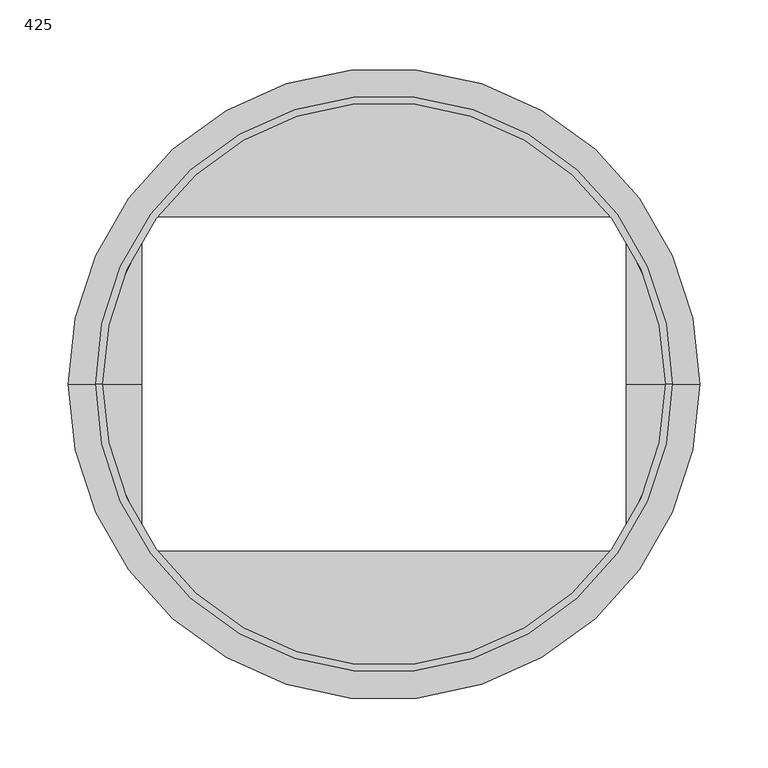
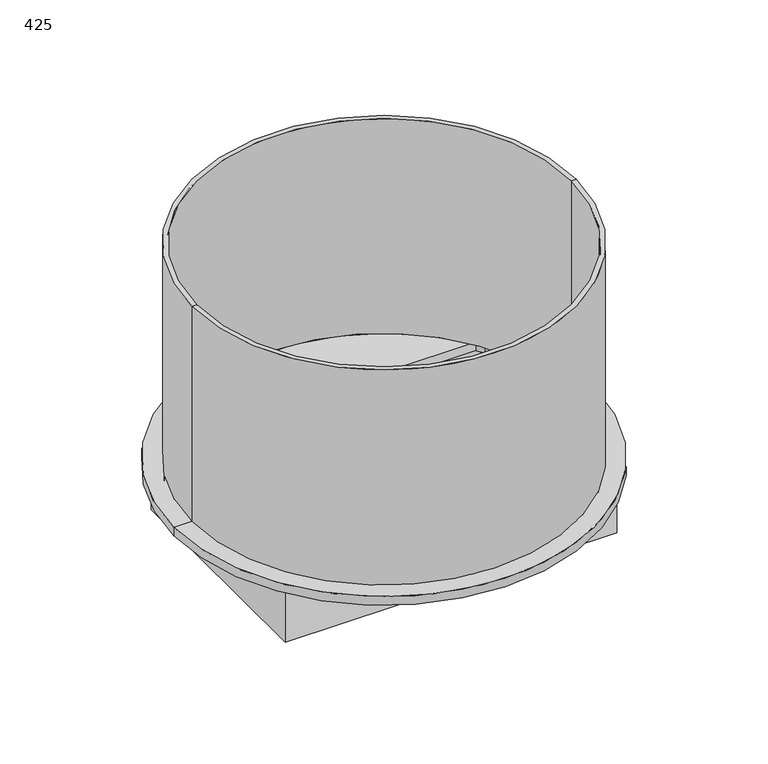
"""IFC4 building model written with IfcOpenShell, lengths in millimetres: unitary equipment geometry, Z_ME_UN_Q-Bic_Plus_Kit_Shaft_Connector_Wavin_(nested) : 425."""

from ifc_helpers import new_model, si_unit, frame, origin, origin_with_axes, place, context, project, spatial, polyline, circle_curve, outline, extrude, source, transform, mapped, element, save
from ifc_brep_helpers import plane_surface, cylinder_surface, revolved_surface, advanced_brep


def unitary_equipment_425_46f02a0c(model_context):
    return source(origin(), model_context, "Body", "SolidModel", [
        advanced_brep(
        [(-211.3, 0.0, 260.0), (211.3, 0.0, 260.0), (211.3, 0.0, 0.0), (177.5, 114.63612, 0.0), (177.5, 114.63612, 10.0), (172.1668958, 122.5, 10.0), (172.1668958, 122.5, 0.0), (-172.1668958, 122.5, 0.0), (-172.1668958, 122.5, 10.0), (-177.5, 114.63612, 10.0), (-177.5, 114.63612, 0.0), (-211.3, 0.0, 0.0), (-177.5, -114.63612, 0.0), (-177.5, -114.63612, 10.0), (-172.1668958, -122.5, 10.0), (-172.1668958, -122.5, 0.0), (172.1668958, -122.5, 0.0), (172.1668958, -122.5, 10.0), (177.5, -114.63612, 10.0), (177.5, -114.63612, 0.0), (-206.3, 0.0, 260.0), (206.3, 0.0, 260.0), (177.5, 105.1353413, 10.0), (165.992289, 122.5, 10.0), (177.5, -105.1353413, 10.0), (165.992289, -122.5, 10.0), (-165.992289, -122.5, 10.0), (-177.5, -105.1353413, 10.0), (-177.5, 105.1353413, 10.0), (-165.992289, 122.5, 10.0), (-177.5, 0.0, 10.0), (-177.5, 0.0, 0.0), (177.5, 0.0, 0.0), (177.5, 0.0, 10.0), (-206.3, 0.0, 10.0), (206.3, 0.0, 10.0)],
        [
            (0, 1, circle_curve(frame((0.0, 0.0, 260.0), z_axis=(0.0, 0.0, -1.0), x_axis=(1.0, 0.0, 0.0)), 211.3)),
            (1, 2),
            (2, 3, circle_curve(origin_with_axes(), 211.3)),
            (3, 4),
            (4, 5, circle_curve(frame((0.0, 0.0, 10.0), z_axis=(0.0, 0.0, 1.0), x_axis=(1.0, 0.0, 0.0)), 211.3)),
            (5, 6),
            (6, 7, circle_curve(origin_with_axes(), 211.3)),
            (7, 8),
            (8, 9, circle_curve(frame((0.0, 0.0, 10.0), z_axis=(0.0, 0.0, 1.0), x_axis=(1.0, 0.0, 0.0)), 211.3)),
            (9, 10),
            (10, 11, circle_curve(origin_with_axes(), 211.3)),
            (11, 0),
            (1, 0, circle_curve(frame((0.0, 0.0, 260.0), z_axis=(0.0, 0.0, -1.0), x_axis=(1.0, 0.0, 0.0)), 211.3)),
            (11, 12, circle_curve(origin_with_axes(), 211.3)),
            (12, 13),
            (13, 14, circle_curve(frame((0.0, 0.0, 10.0), z_axis=(0.0, 0.0, 1.0), x_axis=(1.0, 0.0, 0.0)), 211.3)),
            (14, 15),
            (15, 16, circle_curve(origin_with_axes(), 211.3)),
            (16, 17),
            (17, 18, circle_curve(frame((0.0, 0.0, 10.0), z_axis=(0.0, 0.0, 1.0), x_axis=(1.0, 0.0, 0.0)), 211.3)),
            (18, 19),
            (19, 2, circle_curve(origin_with_axes(), 211.3)),
            (0, 20),
            (20, 21, circle_curve(frame((0.0, 0.0, 260.0), z_axis=(0.0, 0.0, -1.0), x_axis=(1.0, 0.0, 0.0)), 206.3)),
            (21, 1),
            (21, 20, circle_curve(frame((0.0, 0.0, 260.0), z_axis=(0.0, 0.0, -1.0), x_axis=(1.0, 0.0, 0.0)), 206.3)),
            (4, 22),
            (22, 23, circle_curve(frame((0.0, 0.0, 10.0), z_axis=(0.0, 0.0, 1.0), x_axis=(1.0, 0.0, 0.0)), 206.3)),
            (23, 5),
            (24, 18),
            (17, 25),
            (25, 24, circle_curve(frame((0.0, 0.0, 10.0), z_axis=(0.0, 0.0, 1.0), x_axis=(1.0, 0.0, 0.0)), 206.3)),
            (26, 14),
            (13, 27),
            (27, 26, circle_curve(frame((0.0, 0.0, 10.0), z_axis=(0.0, 0.0, 1.0), x_axis=(1.0, 0.0, 0.0)), 206.3)),
            (28, 9),
            (8, 29),
            (29, 28, circle_curve(frame((0.0, 0.0, 10.0), z_axis=(0.0, 0.0, 1.0), x_axis=(1.0, 0.0, 0.0)), 206.3)),
            (23, 29),
            (7, 6),
            (28, 30),
            (30, 27),
            (12, 31),
            (31, 10),
            (26, 25),
            (16, 15),
            (3, 32),
            (32, 19),
            (24, 33),
            (33, 22),
            (20, 34),
            (34, 28, circle_curve(frame((0.0, 0.0, 10.0), z_axis=(0.0, 0.0, -1.0), x_axis=(1.0, 0.0, 0.0)), 206.3)),
            (29, 23, circle_curve(frame((0.0, 0.0, 10.0), z_axis=(0.0, 0.0, -1.0), x_axis=(1.0, 0.0, 0.0)), 206.3)),
            (22, 35, circle_curve(frame((0.0, 0.0, 10.0), z_axis=(0.0, 0.0, -1.0), x_axis=(1.0, 0.0, 0.0)), 206.3)),
            (35, 21),
            (35, 24, circle_curve(frame((0.0, 0.0, 10.0), z_axis=(0.0, 0.0, -1.0), x_axis=(1.0, 0.0, 0.0)), 206.3)),
            (25, 26, circle_curve(frame((0.0, 0.0, 10.0), z_axis=(0.0, 0.0, -1.0), x_axis=(1.0, 0.0, 0.0)), 206.3)),
            (27, 34, circle_curve(frame((0.0, 0.0, 10.0), z_axis=(0.0, 0.0, -1.0), x_axis=(1.0, 0.0, 0.0)), 206.3)),
            (34, 30),
            (33, 35),
            (2, 32),
            (31, 11),
        ],
        [
            cylinder_surface(frame((0.0, 0.0, 260.0), z_axis=(0.0, 0.0, 1.0), x_axis=(1.0, 0.0, 0.0)), 211.3),
            plane_surface(frame((0.0, 0.0, 260.0), z_axis=(0.0, 0.0, 1.0), x_axis=(1.0, 0.0, 0.0))),
            plane_surface(frame((-182.5, 122.5, 10.0), z_axis=(0.0, 0.0, -1.0), x_axis=(-1.0, 0.0, 0.0))),
            plane_surface(frame((177.5, 122.5, 10.0), z_axis=(0.0, -1.0, 0.0), x_axis=(0.0, 0.0, -1.0))),
            plane_surface(frame((-177.5, 122.5, 10.0), z_axis=(1.0, 0.0, 0.0), x_axis=(0.0, 0.0, -1.0))),
            plane_surface(frame((-177.5, -122.5, 10.0), z_axis=(0.0, 1.0, 0.0), x_axis=(0.0, 0.0, -1.0))),
            plane_surface(frame((177.5, -122.5, 10.0), z_axis=(-1.0, 0.0, 0.0), x_axis=(0.0, 0.0, -1.0))),
            revolved_surface(polyline([(206.3, 0.0, 260.0), (206.3, 0.0, 10.0)]), (0.0, 0.0, 260.0), (0.0, 0.0, 1.0)),
            plane_surface(frame((0.0, 0.0, 10.0), z_axis=(0.0, 0.0, 1.0), x_axis=(1.0, 0.0, 0.0))),
            plane_surface(frame((0.0, 0.0, 0.0), z_axis=(0.0, 0.0, -1.0), x_axis=(1.0, 0.0, 0.0))),
        ],
        [
            (0, [[1, 2, 3, 4, 5, 6, 7, 8, 9, 10, 11, 12]]),
            (0, [[-2, 13, -12, 14, 15, 16, 17, 18, 19, 20, 21, 22]]),
            (1, [[-1, 23, 24, 25]]),
            (1, [[-13, -25, 26, -23]]),
            (2, [[27, 28, 29, -5]]),
            (2, [[30, -20, 31, 32]]),
            (2, [[33, -16, 34, 35]]),
            (2, [[36, -9, 37, 38]]),
            (3, [[-29, 39, -37, -8, 40, -6]]),
            (4, [[-36, 41, 42, -34, -15, 43, 44, -10]]),
            (5, [[-33, 45, -31, -19, 46, -17]]),
            (6, [[-27, -4, 47, 48, -21, -30, 49, 50]]),
            (7, [[-24, 51, 52, -38, 53, -28, 54, 55]]),
            (7, [[-26, -55, 56, -32, 57, -35, 58, -51]]),
            (8, [[-52, 59, -41]]),
            (8, [[-53, -39]]),
            (8, [[60, -54, -50]]),
            (8, [[-57, -45]]),
            (8, [[-60, -49, -56]]),
            (8, [[-59, -58, -42]]),
            (9, [[-3, 61, -47]]),
            (9, [[-7, -40]]),
            (9, [[-11, -44, 62]]),
            (9, [[-14, -62, -43]]),
            (9, [[-18, -46]]),
            (9, [[-22, -48, -61]]),
        ],
    ),
        extrude(outline(polyline([(182.5, 127.5), (182.5, -127.5), (-182.5, -127.5), (-182.5, 127.5), (182.5, 127.5)]), holes=[polyline([(177.5, 122.5), (-177.5, 122.5), (-177.5, -122.5), (177.5, -122.5), (177.5, 122.5)])]), frame((0.0, 0.0, -64.0), z_axis=(0.0, 0.0, 1.0), x_axis=(1.0, 0.0, 0.0)), (0.0, 0.0, 1.0), 64.0),
        advanced_brep(
        [(-211.3, 0.0, 0.0), (211.3, 0.0, 0.0), (211.3, 0.0, 10.0), (-211.3, 0.0, 10.0), (-231.3, 0.0, 0.0), (231.3, 0.0, 0.0), (-231.3, 0.0, 10.0), (231.3, 0.0, 10.0)],
        [
            (0, 1, circle_curve(frame((0.0, 0.0, 0.0), z_axis=(0.0, 0.0, -1.0), x_axis=(1.0, 0.0, 0.0)), 211.3)),
            (1, 2),
            (2, 3, circle_curve(frame((0.0, 0.0, 10.0), z_axis=(0.0, 0.0, 1.0), x_axis=(1.0, 0.0, 0.0)), 211.3)),
            (3, 0),
            (1, 0, circle_curve(frame((0.0, 0.0, 0.0), z_axis=(0.0, 0.0, -1.0), x_axis=(1.0, 0.0, 0.0)), 211.3)),
            (3, 2, circle_curve(frame((0.0, 0.0, 10.0), z_axis=(0.0, 0.0, 1.0), x_axis=(1.0, 0.0, 0.0)), 211.3)),
            (4, 5, circle_curve(frame((0.0, 0.0, 0.0), z_axis=(0.0, 0.0, -1.0), x_axis=(1.0, 0.0, 0.0)), 231.3)),
            (5, 1),
            (0, 4),
            (5, 4, circle_curve(frame((0.0, 0.0, 0.0), z_axis=(0.0, 0.0, -1.0), x_axis=(1.0, 0.0, 0.0)), 231.3)),
            (6, 7, circle_curve(frame((0.0, 0.0, 10.0), z_axis=(0.0, 0.0, -1.0), x_axis=(1.0, 0.0, 0.0)), 231.3)),
            (7, 5),
            (4, 6),
            (7, 6, circle_curve(frame((0.0, 0.0, 10.0), z_axis=(0.0, 0.0, -1.0), x_axis=(1.0, 0.0, 0.0)), 231.3)),
            (2, 7),
            (6, 3),
        ],
        [
            revolved_surface(polyline([(211.3, 0.0, 10.0), (211.3, 0.0, 0.0)]), (0.0, 0.0, -381.0), (0.0, 0.0, 1.0)),
            plane_surface(frame((0.0, 0.0, 0.0), z_axis=(0.0, 0.0, -1.0), x_axis=(1.0, 0.0, 0.0))),
            cylinder_surface(frame((0.0, 0.0, -381.0), z_axis=(0.0, 0.0, 1.0), x_axis=(1.0, 0.0, 0.0)), 231.3),
            plane_surface(frame((0.0, 0.0, 10.0), z_axis=(0.0, 0.0, 1.0), x_axis=(1.0, 0.0, 0.0))),
        ],
        [
            (0, [[1, 2, 3, 4]]),
            (0, [[5, -4, 6, -2]]),
            (1, [[7, 8, -1, 9]]),
            (1, [[10, -9, -5, -8]]),
            (2, [[11, 12, -7, 13]]),
            (2, [[14, -13, -10, -12]]),
            (3, [[-3, 15, -11, 16]]),
            (3, [[-6, -16, -14, -15]]),
        ],
    ),
    ])


if __name__ == "__main__":
    model = new_model("IFC4")
    model_context = context("Model", 3, world=origin())
    ifc_project = project(units=[si_unit("LENGTHUNIT", "METRE", prefix="MILLI")], contexts=[model_context])
    site = spatial("IfcSite", under=ifc_project)
    building = spatial("IfcBuilding", under=site)
    placement = place(None, origin())
    unitary_equipment_425_shape = unitary_equipment_425_46f02a0c(model_context)
    element("IfcUnitaryEquipment", 1, ObjectType="Z_ME_UN_Q-Bic_Plus_Kit_Shaft_Connector_Wavin_(nested) : 425", at=placement, inside=building, context=model_context, shape_type="MappedRepresentation", body=[
        mapped(unitary_equipment_425_shape, transform((0.0, 0.0, 0.0), x_axis=(1.0, 0.0, 0.0), y_axis=(0.0, 1.0, 0.0), z_axis=(0.0, 0.0, 1.0))),
    ])
    save(model, "model.ifc")
